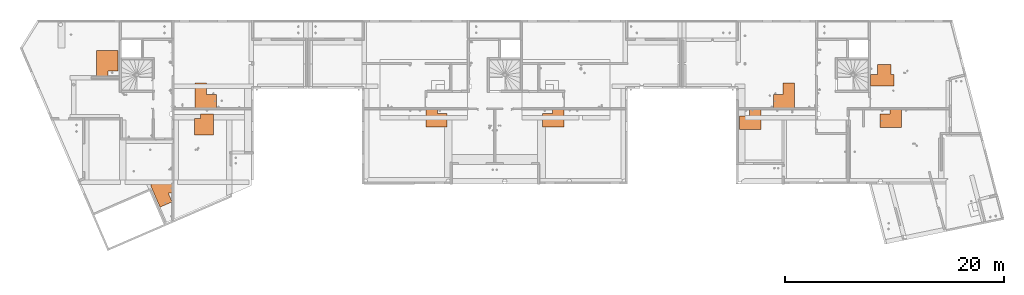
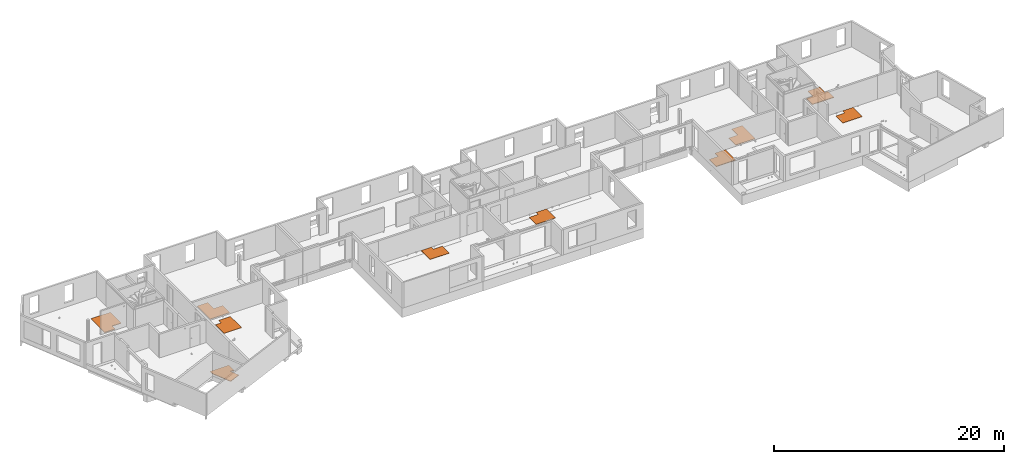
# One storey, part 27 of 34: 10 proxies.
"""IFC2X3 building model written with IfcOpenShell, lengths in centimetres."""

from ifc_helpers import new_model, entity, si_unit, converted_unit, derived_unit, direction, frame, origin, place, context, subcontext, project, spatial, polyline, outline, extrude, source, transform, mapped, material, type_object, type_shapes, element, save


model = new_model("IFC2X3")

# Units and contexts
model_context = context("Model", 3, precision=0.001, world=origin(), true_north=direction((6.12303176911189e-17, 1.0)))
body_context = subcontext(model_context, "Body", "Model", "MODEL_VIEW")
ifc_project = project(units=[si_unit("LENGTHUNIT", "METRE", prefix="CENTI"), si_unit("AREAUNIT", "SQUARE_METRE"), si_unit("VOLUMEUNIT", "CUBIC_METRE"), converted_unit("PLANEANGLEUNIT", "DEGREE", entity("IfcRatioMeasure", 0.0174532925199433), si_unit("PLANEANGLEUNIT", "RADIAN"), dimensions=[0, 0, 0, 0, 0, 0, 0]), si_unit("MASSUNIT", "GRAM", prefix="KILO"), derived_unit("MASSDENSITYUNIT", [(si_unit("MASSUNIT", "GRAM", prefix="KILO"), 1), (si_unit("LENGTHUNIT", "METRE"), -3)]), si_unit("TIMEUNIT", "SECOND"), si_unit("FREQUENCYUNIT", "HERTZ"), si_unit("THERMODYNAMICTEMPERATUREUNIT", "DEGREE_CELSIUS"), derived_unit("THERMALTRANSMITTANCEUNIT", [(si_unit("MASSUNIT", "GRAM", prefix="KILO"), 1), (si_unit("THERMODYNAMICTEMPERATUREUNIT", "KELVIN"), -1), (si_unit("TIMEUNIT", "SECOND"), -3)]), derived_unit("VOLUMETRICFLOWRATEUNIT", [(si_unit("LENGTHUNIT", "METRE"), 3), (si_unit("TIMEUNIT", "SECOND"), -1)]), si_unit("ELECTRICCURRENTUNIT", "AMPERE"), si_unit("ELECTRICVOLTAGEUNIT", "VOLT"), si_unit("POWERUNIT", "WATT"), si_unit("FORCEUNIT", "NEWTON"), si_unit("ILLUMINANCEUNIT", "LUX"), si_unit("LUMINOUSFLUXUNIT", "LUMEN"), si_unit("LUMINOUSINTENSITYUNIT", "CANDELA"), derived_unit("USERDEFINED", [(si_unit("MASSUNIT", "GRAM", prefix="KILO"), -1), (si_unit("LENGTHUNIT", "METRE"), -2), (si_unit("TIMEUNIT", "SECOND"), 3), (si_unit("LUMINOUSFLUXUNIT", "LUMEN"), 1)]), derived_unit("LINEARVELOCITYUNIT", [(si_unit("LENGTHUNIT", "METRE"), 1), (si_unit("TIMEUNIT", "SECOND"), -1)]), si_unit("PRESSUREUNIT", "PASCAL"), derived_unit("USERDEFINED", [(si_unit("LENGTHUNIT", "METRE"), -2), (si_unit("MASSUNIT", "GRAM", prefix="KILO"), 1), (si_unit("TIMEUNIT", "SECOND"), -2)])], contexts=[model_context])

# Site, building, storey
site_placement = place(None, origin())
site = spatial("IfcSite", under=ifc_project, at=site_placement, Name="Default", CompositionType="ELEMENT")
building_placement = place(site_placement, origin())
building = spatial("IfcBuilding", under=site, at=building_placement, Name="CAGE 03", CompositionType="ELEMENT")
storey_placement = place(building_placement, frame((0.0, 0.0, 340.0)))
storey = spatial("IfcBuildingStorey", under=building, at=storey_placement, Name="R+1", CompositionType="ELEMENT", Elevation=340.0)

# Proxies
ifc_material = material(Name="BBGO_Résa")
building_element_proxy_type_1 = type_object("IfcBuildingElementProxyType", Name="Décaissé", PredefinedType="NOTDEFINED", material=ifc_material)
shared_shape_1 = source(origin(), body_context, "Body", "SweptSolid", [
    extrude(outline(polyline([(-74.9887882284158, -85.4889546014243), (115.398941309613, -85.4889546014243), (115.398941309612, -53.5072657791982), (34.4443820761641, 133.590988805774), (-75.6883367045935, 85.9382422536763), (-39.5763515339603, 2.47797196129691), (-74.9887882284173, 2.47797196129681), (-74.9887882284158, -85.4889546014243)])), frame((4059.37703191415, 3719.17171147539, 334.0), z_axis=(0.0, 0.0, 1.0), x_axis=(-1.0, 0.0, 0.0)), (0.0, 0.0, 1.0), 5.99999999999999),
])
type_shapes(building_element_proxy_type_1, [shared_shape_1])
proxy_1_placement = place(storey_placement, frame((0.0, 0.0, -340.0)))
element("IfcBuildingElementProxy", 1, at=proxy_1_placement, inside=storey, type_object=building_element_proxy_type_1, material=ifc_material, Name="Décaissé:Décaissé", ObjectType="Décaissé", context=body_context, shape_type="MappedRepresentation", body=[
    mapped(shared_shape_1, transform((0.0, 0.0, 0.0), scale=1.0)),
])
building_element_proxy_type_2 = type_object("IfcBuildingElementProxyType", Name="Décaissé", PredefinedType="NOTDEFINED", material=ifc_material)
shared_shape_2 = source(origin(), body_context, "Body", "SweptSolid", [
    extrude(outline(polyline([(-95.0, -142.666666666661), (100.0, -142.666666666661), (100.0, 97.3333333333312), (-5.0, 97.3333333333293), (-5.0, 45.3333333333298), (-95.0, 45.3333333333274), (-95.0, -142.666666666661)])), frame((3547.36582014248, 4872.49399941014, 334.0), z_axis=(0.0, 0.0, 1.0), x_axis=(-1.0, 0.0, 0.0)), (0.0, 0.0, 1.0), 5.99999999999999),
])
type_shapes(building_element_proxy_type_2, [shared_shape_2])
proxy_2_placement = place(storey_placement, frame((0.0, 0.0, -340.0)))
element("IfcBuildingElementProxy", 2, at=proxy_2_placement, inside=storey, type_object=building_element_proxy_type_2, material=ifc_material, Name="Décaissé1:Décaissé", ObjectType="Décaissé", context=body_context, shape_type="MappedRepresentation", body=[
    mapped(shared_shape_2, transform((0.0, 0.0, 0.0), scale=1.0)),
])
building_element_proxy_type_3 = type_object("IfcBuildingElementProxyType", Name="Décaissé", PredefinedType="NOTDEFINED", material=ifc_material)
shared_shape_3 = source(origin(), body_context, "Body", "SweptSolid", [
    extrude(outline(polyline([(-98.3333333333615, -80.0), (21.6666666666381, -80.0), (21.6666666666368, -35.0), (76.6666666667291, -35.0), (76.6666666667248, 115.0), (-98.3333333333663, 115.0), (-98.3333333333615, -80.0)])), frame((4416.53248680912, 4357.66066607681, 334.0), z_axis=(0.0, 0.0, 1.0), x_axis=(-1.0, 0.0, 0.0)), (0.0, 0.0, 1.0), 5.99999999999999),
])
type_shapes(building_element_proxy_type_3, [shared_shape_3])
proxy_3_placement = place(storey_placement, frame((0.0, 0.0, -340.0)))
element("IfcBuildingElementProxy", 3, at=proxy_3_placement, inside=storey, type_object=building_element_proxy_type_3, material=ifc_material, Name="Décaissé2:Décaissé", ObjectType="Décaissé", context=body_context, shape_type="MappedRepresentation", body=[
    mapped(shared_shape_3, transform((0.0, 0.0, 0.0), scale=1.0)),
])
building_element_proxy_type_4 = type_object("IfcBuildingElementProxyType", Name="Décaissé", PredefinedType="NOTDEFINED", material=ifc_material)
shared_shape_4 = source(origin(), body_context, "Body", "SweptSolid", [
    extrude(outline(polyline([(-5.0, -110.666666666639), (100.0, -110.666666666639), (100.0, 116.333333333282), (-95.0, 116.333333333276), (-95.0, -5.66666666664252), (-5.0, -5.66666666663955), (-5.0, -110.666666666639)])), frame((4444.37079311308, 4608.99399941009, 334.0), z_axis=(0.0, 0.0, 1.0), x_axis=(-1.0, 0.0, 0.0)), (0.0, 0.0, 1.0), 5.99999999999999),
])
type_shapes(building_element_proxy_type_4, [shared_shape_4])
proxy_4_placement = place(storey_placement, frame((0.0, 0.0, -340.0)))
element("IfcBuildingElementProxy", 4, at=proxy_4_placement, inside=storey, type_object=building_element_proxy_type_4, material=ifc_material, Name="Décaissé3:Décaissé", ObjectType="Décaissé", context=body_context, shape_type="MappedRepresentation", body=[
    mapped(shared_shape_4, transform((0.0, 0.0, 0.0), scale=1.0)),
])
building_element_proxy_type_5 = type_object("IfcBuildingElementProxyType", Name="Décaissé", PredefinedType="NOTDEFINED", material=ifc_material)
shared_shape_5 = source(origin(), body_context, "Body", "SweptSolid", [
    extrude(outline(polyline([(-5.6250000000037, -61.2500000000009), (99.3750000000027, -61.2500000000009), (99.3750000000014, -8.24999999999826), (99.3749999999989, 95.7500000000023), (-95.625000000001, 95.7499999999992), (-95.6249999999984, -8.25000000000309), (-95.624999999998, -26.2499999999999), (-5.62500000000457, -26.2499999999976), (-5.6250000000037, -61.2500000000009)])), frame((6550.24082014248, 4413.4106660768, 334.0), z_axis=(0.0, 0.0, 1.0), x_axis=(-1.0, 0.0, 0.0)), (0.0, 0.0, 1.0), 5.99999999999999),
])
type_shapes(building_element_proxy_type_5, [shared_shape_5])
proxy_5_placement = place(storey_placement, frame((0.0, 0.0, -340.0)))
element("IfcBuildingElementProxy", 5, at=proxy_5_placement, inside=storey, type_object=building_element_proxy_type_5, material=ifc_material, Name="Décaissé5:Décaissé", ObjectType="Décaissé", context=body_context, shape_type="MappedRepresentation", body=[
    mapped(shared_shape_5, transform((0.0, 0.0, 0.0), scale=1.0)),
])
building_element_proxy_type_6 = type_object("IfcBuildingElementProxyType", Name="Décaissé", PredefinedType="NOTDEFINED", material=ifc_material)
shared_shape_6 = source(origin(), body_context, "Body", "SweptSolid", [
    extrude(outline(polyline([(-61.2500000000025, 5.62500000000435), (-61.2500000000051, -99.3750000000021), (-8.24999999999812, -99.3750000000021), (95.7499999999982, -99.3750000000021), (95.7499999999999, 95.6249999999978), (-8.24999999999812, 95.6249999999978), (-26.2499999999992, 95.6249999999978), (-26.2499999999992, 5.62500000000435), (-61.2500000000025, 5.62500000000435)])), frame((7612.49082014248, 4413.4106660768, 334.0), z_axis=(0.0, 0.0, -1.0), x_axis=(0.0, -1.0, 0.0)), (0.0, 0.0, -1.0), 5.99999999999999),
])
type_shapes(building_element_proxy_type_6, [shared_shape_6])
proxy_6_placement = place(storey_placement, frame((0.0, 0.0, -340.0)))
element("IfcBuildingElementProxy", 6, at=proxy_6_placement, inside=storey, type_object=building_element_proxy_type_6, material=ifc_material, Name="Décaissé7:Décaissé", ObjectType="Décaissé", context=body_context, shape_type="MappedRepresentation", body=[
    mapped(shared_shape_6, transform((0.0, 0.0, 0.0), scale=1.0)),
])
building_element_proxy_type_7 = type_object("IfcBuildingElementProxyType", Name="Décaissé", PredefinedType="NOTDEFINED", material=ifc_material)
shared_shape_7 = source(origin(), body_context, "Body", "SweptSolid", [
    extrude(outline(polyline([(-110.666666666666, 5.00103927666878), (-110.666666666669, -100.000519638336), (116.333333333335, -100.000519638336), (116.333333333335, 94.9994803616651), (-5.66666666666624, 94.9994803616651), (-5.66666666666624, 5.00103927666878), (-110.666666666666, 5.00103927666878)])), frame((9718.36764074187, 4608.99399941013, 334.0), z_axis=(0.0, 0.0, -1.0), x_axis=(0.0, -1.0, 0.0)), (0.0, 0.0, -1.0), 5.99999999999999),
])
type_shapes(building_element_proxy_type_7, [shared_shape_7])
proxy_7_placement = place(storey_placement, frame((0.0, 0.0, -340.0)))
element("IfcBuildingElementProxy", 7, at=proxy_7_placement, inside=storey, type_object=building_element_proxy_type_7, material=ifc_material, Name="Décaissé8:Décaissé", ObjectType="Décaissé", context=body_context, shape_type="MappedRepresentation", body=[
    mapped(shared_shape_7, transform((0.0, 0.0, 0.0), scale=1.0)),
])
building_element_proxy_type_8 = type_object("IfcBuildingElementProxyType", Name="Décaissé", PredefinedType="NOTDEFINED", material=ifc_material)
shared_shape_8 = source(origin(), body_context, "Body", "SweptSolid", [
    extrude(outline(polyline([(-78.6666666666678, 5.0), (-78.6666666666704, -100.0), (100.333333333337, -100.0), (100.333333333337, 95.0), (-21.6666666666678, 95.0), (-21.6666666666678, 5.0), (-78.6666666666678, 5.0)])), frame((9409.36582014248, 4395.99399941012, 334.0), z_axis=(0.0, 0.0, -1.0), x_axis=(0.0, -1.0, 0.0)), (0.0, 0.0, -1.0), 5.99999999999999),
])
type_shapes(building_element_proxy_type_8, [shared_shape_8])
proxy_8_placement = place(storey_placement, frame((0.0, 0.0, -340.0)))
element("IfcBuildingElementProxy", 8, at=proxy_8_placement, inside=storey, type_object=building_element_proxy_type_8, material=ifc_material, Name="Décaissé9:Décaissé", ObjectType="Décaissé", context=body_context, shape_type="MappedRepresentation", body=[
    mapped(shared_shape_8, transform((0.0, 0.0, 0.0), scale=1.0)),
])
building_element_proxy_type_9 = type_object("IfcBuildingElementProxyType", Name="Décaissé", PredefinedType="NOTDEFINED", material=ifc_material)
shared_shape_9 = source(origin(), body_context, "Body", "SweptSolid", [
    extrude(outline(polyline([(-93.7499999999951, 50.7499999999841), (-93.7499999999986, -69.250000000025), (-3.75000000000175, -69.250000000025), (-3.75000000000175, -99.2500000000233), (101.249999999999, -99.2500000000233), (101.249999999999, 117.750000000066), (-3.75000000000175, 117.750000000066), (-3.75000000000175, 50.7499999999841), (-93.7499999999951, 50.7499999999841)])), frame((10626.1158201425, 4793.91066607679, 334.0), z_axis=(0.0, 0.0, -1.0), x_axis=(0.0, -1.0, 0.0)), (0.0, 0.0, -1.0), 5.99999999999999),
])
type_shapes(building_element_proxy_type_9, [shared_shape_9])
proxy_9_placement = place(storey_placement, frame((0.0, 0.0, -340.0)))
element("IfcBuildingElementProxy", 9, at=proxy_9_placement, inside=storey, type_object=building_element_proxy_type_9, material=ifc_material, Name="Décaissé10:Décaissé", ObjectType="Décaissé", context=body_context, shape_type="MappedRepresentation", body=[
    mapped(shared_shape_9, transform((0.0, 0.0, 0.0), scale=1.0)),
])
building_element_proxy_type_10 = type_object("IfcBuildingElementProxyType", Name="Décaissé", PredefinedType="NOTDEFINED", material=ifc_material)
shared_shape_10 = source(origin(), body_context, "Body", "SweptSolid", [
    extrude(outline(polyline([(-66.0, 5.0), (-66.0, -100.0), (94.0, -100.0), (94.0, 95.0), (-28.0, 95.0), (-28.0, 5.0), (-66.0, 5.0)])), frame((10692.3658201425, 4408.66066607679, 334.0), z_axis=(0.0, 0.0, -1.0), x_axis=(0.0, -1.0, 0.0)), (0.0, 0.0, -1.0), 5.99999999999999),
])
type_shapes(building_element_proxy_type_10, [shared_shape_10])
proxy_10_placement = place(storey_placement, frame((0.0, 0.0, -340.0)))
element("IfcBuildingElementProxy", 10, at=proxy_10_placement, inside=storey, type_object=building_element_proxy_type_10, material=ifc_material, Name="Décaissé11:Décaissé", ObjectType="Décaissé", context=body_context, shape_type="MappedRepresentation", body=[
    mapped(shared_shape_10, transform((0.0, 0.0, 0.0), scale=1.0)),
])

save(model, "model.ifc")
